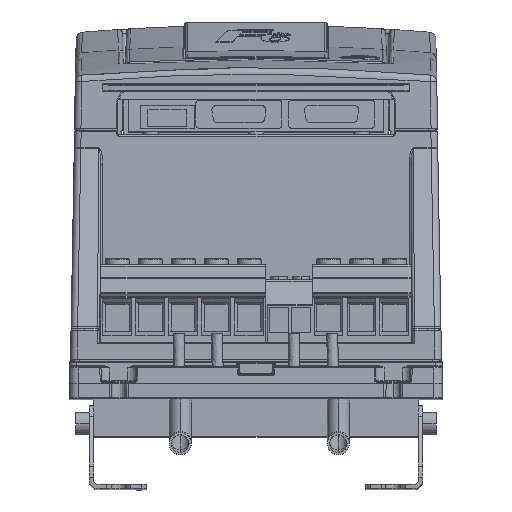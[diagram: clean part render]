
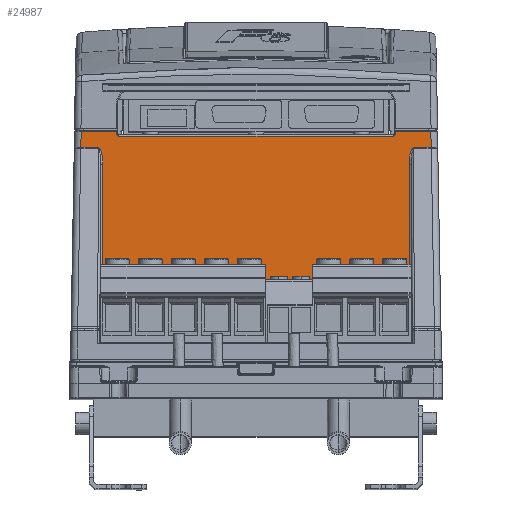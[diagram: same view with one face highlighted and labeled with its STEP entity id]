
A CAD part, top view. The second image highlights one B-rep face of the part: STEP entity #24987.
In plain terms, the highlighted planar face has unit normal (0, 0, 1).
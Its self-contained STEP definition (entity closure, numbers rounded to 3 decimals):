
#1111 = CARTESIAN_POINT ( 'NONE',  ( -69.763, -47.4, 124. ) ) ;
#1179 = LINE ( 'NONE', #10992, #50629 ) ;
#2448 = CARTESIAN_POINT ( 'NONE',  ( -71.729, 41.234, 124. ) ) ;
#2912 = DIRECTION ( 'NONE',  ( -1., 0., 0. ) ) ;
#2989 = CARTESIAN_POINT ( 'NONE',  ( -84.5, 48.6, 124. ) ) ;
#3251 = ORIENTED_EDGE ( 'NONE', *, *, #35529, .T. ) ;
#3365 = CARTESIAN_POINT ( 'NONE',  ( 69.763, 38.164, 124. ) ) ;
#3583 = CARTESIAN_POINT ( 'NONE',  ( 71.729, 41.234, 124. ) ) ;
#5580 = CARTESIAN_POINT ( 'NONE',  ( 62.5, 47.6, 124. ) ) ;
#5594 = LINE ( 'NONE', #25641, #59253 ) ;
#6305 = VERTEX_POINT ( 'NONE', #27609 ) ;
#7482 =( BOUNDED_CURVE ( )  B_SPLINE_CURVE ( 3, ( #8838, #23963, #12818, #39107 ),
 .UNSPECIFIED., .F., .T. ) 
 B_SPLINE_CURVE_WITH_KNOTS ( ( 4, 4 ),
 ( 6.282, 7.836 ),
 .UNSPECIFIED. ) 
 CURVE ( )  GEOMETRIC_REPRESENTATION_ITEM ( )  RATIONAL_B_SPLINE_CURVE ( ( 1., 0.809, 0.809, 1. ) ) 
 REPRESENTATION_ITEM ( '' )  );
#7563 = VECTOR ( 'NONE', #64394, 1000. ) ;
#7686 = EDGE_CURVE ( 'NONE', #62381, #45015, #40835, .T. ) ;
#7888 = DIRECTION ( 'NONE',  ( 0., 0., -1. ) ) ;
#8157 = DIRECTION ( 'NONE',  ( -1., 0., 0. ) ) ;
#8838 = CARTESIAN_POINT ( 'NONE',  ( -71.729, 41.234, 124. ) ) ;
#10251 = CARTESIAN_POINT ( 'NONE',  ( -63.5, 48.6, 124. ) ) ;
#10365 = ORIENTED_EDGE ( 'NONE', *, *, #22477, .T. ) ;
#10992 = CARTESIAN_POINT ( 'NONE',  ( -63.5, 89.215, 124. ) ) ;
#11849 = VERTEX_POINT ( 'NONE', #39962 ) ;
#12438 = VERTEX_POINT ( 'NONE', #3583 ) ;
#12560 = LINE ( 'NONE', #42485, #57003 ) ;
#12648 =( BOUNDED_CURVE ( )  B_SPLINE_CURVE ( 3, ( #28355, #3365, #23384, #63548 ),
 .UNSPECIFIED., .F., .T. ) 
 B_SPLINE_CURVE_WITH_KNOTS ( ( 4, 4 ),
 ( 4.73, 6.284 ),
 .UNSPECIFIED. ) 
 CURVE ( )  GEOMETRIC_REPRESENTATION_ITEM ( )  RATIONAL_B_SPLINE_CURVE ( ( 1., 0.809, 0.809, 1. ) ) 
 REPRESENTATION_ITEM ( '' )  );
#12818 = CARTESIAN_POINT ( 'NONE',  ( -69.763, 38.164, 124. ) ) ;
#12957 = ORIENTED_EDGE ( 'NONE', *, *, #37026, .F. ) ;
#13079 = CARTESIAN_POINT ( 'NONE',  ( -84.5, -47.4, 124. ) ) ;
#13761 = ORIENTED_EDGE ( 'NONE', *, *, #25732, .T. ) ;
#14023 = CARTESIAN_POINT ( 'NONE',  ( 79.767, 41.234, 124. ) ) ;
#14823 = VERTEX_POINT ( 'NONE', #47108 ) ;
#15109 = VECTOR ( 'NONE', #58243, 1000. ) ;
#16128 = CARTESIAN_POINT ( 'NONE',  ( 69.763, 89.215, 124. ) ) ;
#16834 = EDGE_CURVE ( 'NONE', #11849, #14823, #7482, .T. ) ;
#17887 = EDGE_CURVE ( 'NONE', #55895, #19028, #27983, .T. ) ;
#17989 = DIRECTION ( 'NONE',  ( 0., 0., 1. ) ) ;
#19028 = VERTEX_POINT ( 'NONE', #44159 ) ;
#19867 = LINE ( 'NONE', #39006, #45500 ) ;
#20281 = VECTOR ( 'NONE', #62766, 1000. ) ;
#20409 = DIRECTION ( 'NONE',  ( 0., 1., 0. ) ) ;
#20489 = VECTOR ( 'NONE', #20409, 1000. ) ;
#20568 = VECTOR ( 'NONE', #36397, 1000. ) ;
#22477 = EDGE_CURVE ( 'NONE', #19028, #6305, #32980, .T. ) ;
#22649 = CIRCLE ( 'NONE', #31059, 1. ) ;
#22928 = CARTESIAN_POINT ( 'NONE',  ( -78.911, 89.115, 124. ) ) ;
#23384 = CARTESIAN_POINT ( 'NONE',  ( 70.573, 41.234, 124. ) ) ;
#23555 = ORIENTED_EDGE ( 'NONE', *, *, #38395, .T. ) ;
#23881 = VECTOR ( 'NONE', #8157, 1000. ) ;
#23963 = CARTESIAN_POINT ( 'NONE',  ( -70.573, 41.234, 124. ) ) ;
#24987 = ADVANCED_FACE ( 'NONE', ( #37531 ), #32904, .F. ) ;
#25641 = CARTESIAN_POINT ( 'NONE',  ( -84.5, 48.6, 124. ) ) ;
#25732 = EDGE_CURVE ( 'NONE', #58725, #56556, #26179, .T. ) ;
#25903 = VERTEX_POINT ( 'NONE', #1111 ) ;
#26179 = LINE ( 'NONE', #46254, #20568 ) ;
#27235 = EDGE_CURVE ( 'NONE', #45015, #12438, #12648, .T. ) ;
#27450 = LINE ( 'NONE', #2448, #63550 ) ;
#27609 = CARTESIAN_POINT ( 'NONE',  ( 63.5, 47.6, 124. ) ) ;
#27983 = LINE ( 'NONE', #2989, #15109 ) ;
#28355 = CARTESIAN_POINT ( 'NONE',  ( 69.763, 33.786, 124. ) ) ;
#28586 = CARTESIAN_POINT ( 'NONE',  ( 62.5, 46.6, 124. ) ) ;
#29763 = DIRECTION ( 'NONE',  ( -0.018, 1., 0. ) ) ;
#29875 = EDGE_LOOP ( 'NONE', ( #56882, #39685, #50650, #47726, #49964, #41626, #10365, #59446, #13761, #12957, #37411, #3251, #55850, #23555, #57209, #58864 ) ) ;
#31059 = AXIS2_PLACEMENT_3D ( 'NONE', #42364, #17989, #2912 ) ;
#32904 = PLANE ( 'NONE',  #37359 ) ;
#32980 = LINE ( 'NONE', #43148, #35775 ) ;
#33074 = VERTEX_POINT ( 'NONE', #40769 ) ;
#33171 = EDGE_CURVE ( 'NONE', #58725, #6305, #54844, .T. ) ;
#33296 = EDGE_CURVE ( 'NONE', #12438, #57350, #44324, .T. ) ;
#34604 = EDGE_CURVE ( 'NONE', #57350, #55895, #19867, .T. ) ;
#35529 = EDGE_CURVE ( 'NONE', #57953, #58886, #5594, .T. ) ;
#35775 = VECTOR ( 'NONE', #62591, 1000. ) ;
#36089 = CARTESIAN_POINT ( 'NONE',  ( 69.763, 33.786, 124. ) ) ;
#36184 = CARTESIAN_POINT ( 'NONE',  ( 79.633, 48.6, 124. ) ) ;
#36397 = DIRECTION ( 'NONE',  ( -1., 0., 0. ) ) ;
#37026 = EDGE_CURVE ( 'NONE', #33074, #56556, #22649, .T. ) ;
#37359 = AXIS2_PLACEMENT_3D ( 'NONE', #52924, #7888, #57585 ) ;
#37411 = ORIENTED_EDGE ( 'NONE', *, *, #46241, .T. ) ;
#37531 = FACE_OUTER_BOUND ( 'NONE', #29875, .T. ) ;
#38075 = AXIS2_PLACEMENT_3D ( 'NONE', #5580, #46369, #45389 ) ;
#38395 = EDGE_CURVE ( 'NONE', #64839, #11849, #27450, .T. ) ;
#39006 = CARTESIAN_POINT ( 'NONE',  ( 78.857, 92.127, 124. ) ) ;
#39107 = CARTESIAN_POINT ( 'NONE',  ( -69.763, 33.786, 124. ) ) ;
#39685 = ORIENTED_EDGE ( 'NONE', *, *, #7686, .T. ) ;
#39962 = CARTESIAN_POINT ( 'NONE',  ( -71.729, 41.234, 124. ) ) ;
#40131 = DIRECTION ( 'NONE',  ( -1., 0., 0. ) ) ;
#40769 = CARTESIAN_POINT ( 'NONE',  ( -63.5, 47.6, 124. ) ) ;
#40835 = LINE ( 'NONE', #16128, #20489 ) ;
#41333 = EDGE_CURVE ( 'NONE', #62381, #25903, #44648, .T. ) ;
#41626 = ORIENTED_EDGE ( 'NONE', *, *, #17887, .T. ) ;
#41922 = CARTESIAN_POINT ( 'NONE',  ( -62.5, 46.6, 124. ) ) ;
#41926 = DIRECTION ( 'NONE',  ( 0., 1., 0. ) ) ;
#42364 = CARTESIAN_POINT ( 'NONE',  ( -62.5, 47.6, 124. ) ) ;
#42485 = CARTESIAN_POINT ( 'NONE',  ( -69.763, 89.215, 124. ) ) ;
#42685 = LINE ( 'NONE', #22928, #20281 ) ;
#43148 = CARTESIAN_POINT ( 'NONE',  ( 63.5, 89.215, 124. ) ) ;
#44159 = CARTESIAN_POINT ( 'NONE',  ( 63.5, 48.6, 124. ) ) ;
#44324 = LINE ( 'NONE', #14023, #7563 ) ;
#44648 = LINE ( 'NONE', #13079, #23881 ) ;
#44688 = CARTESIAN_POINT ( 'NONE',  ( -79.633, 48.6, 124. ) ) ;
#45015 = VERTEX_POINT ( 'NONE', #36089 ) ;
#45389 = DIRECTION ( 'NONE',  ( -1., 0., 0. ) ) ;
#45500 = VECTOR ( 'NONE', #29763, 1000. ) ;
#46241 = EDGE_CURVE ( 'NONE', #33074, #57953, #1179, .T. ) ;
#46254 = CARTESIAN_POINT ( 'NONE',  ( 49.191, 46.6, 124. ) ) ;
#46369 = DIRECTION ( 'NONE',  ( 0., 0., 1. ) ) ;
#46705 = EDGE_CURVE ( 'NONE', #14823, #25903, #12560, .T. ) ;
#47108 = CARTESIAN_POINT ( 'NONE',  ( -69.763, 33.786, 124. ) ) ;
#47726 = ORIENTED_EDGE ( 'NONE', *, *, #33296, .T. ) ;
#48307 = CARTESIAN_POINT ( 'NONE',  ( -79.765, 41.234, 124. ) ) ;
#48870 = CARTESIAN_POINT ( 'NONE',  ( 79.765, 41.234, 124. ) ) ;
#49964 = ORIENTED_EDGE ( 'NONE', *, *, #34604, .T. ) ;
#50629 = VECTOR ( 'NONE', #41926, 1000. ) ;
#50650 = ORIENTED_EDGE ( 'NONE', *, *, #27235, .T. ) ;
#52924 = CARTESIAN_POINT ( 'NONE',  ( -84.5, 89.215, 124. ) ) ;
#54844 = CIRCLE ( 'NONE', #38075, 1. ) ;
#55850 = ORIENTED_EDGE ( 'NONE', *, *, #60014, .T. ) ;
#55895 = VERTEX_POINT ( 'NONE', #36184 ) ;
#56556 = VERTEX_POINT ( 'NONE', #41922 ) ;
#56874 = CARTESIAN_POINT ( 'NONE',  ( 69.763, -47.4, 124. ) ) ;
#56882 = ORIENTED_EDGE ( 'NONE', *, *, #41333, .F. ) ;
#57003 = VECTOR ( 'NONE', #57979, 1000. ) ;
#57209 = ORIENTED_EDGE ( 'NONE', *, *, #16834, .T. ) ;
#57350 = VERTEX_POINT ( 'NONE', #48870 ) ;
#57585 = DIRECTION ( 'NONE',  ( -1., 0., 0. ) ) ;
#57953 = VERTEX_POINT ( 'NONE', #10251 ) ;
#57979 = DIRECTION ( 'NONE',  ( 0., -1., 0. ) ) ;
#58243 = DIRECTION ( 'NONE',  ( -1., 0., 0. ) ) ;
#58725 = VERTEX_POINT ( 'NONE', #28586 ) ;
#58864 = ORIENTED_EDGE ( 'NONE', *, *, #46705, .T. ) ;
#58886 = VERTEX_POINT ( 'NONE', #44688 ) ;
#59253 = VECTOR ( 'NONE', #40131, 1000. ) ;
#59446 = ORIENTED_EDGE ( 'NONE', *, *, #33171, .F. ) ;
#60014 = EDGE_CURVE ( 'NONE', #58886, #64839, #42685, .T. ) ;
#62381 = VERTEX_POINT ( 'NONE', #56874 ) ;
#62591 = DIRECTION ( 'NONE',  ( 0., -1., 0. ) ) ;
#62643 = DIRECTION ( 'NONE',  ( 1., 0., 0. ) ) ;
#62766 = DIRECTION ( 'NONE',  ( -0.018, -1., 0. ) ) ;
#63548 = CARTESIAN_POINT ( 'NONE',  ( 71.729, 41.234, 124. ) ) ;
#63550 = VECTOR ( 'NONE', #62643, 1000. ) ;
#64394 = DIRECTION ( 'NONE',  ( 1., 0., 0. ) ) ;
#64839 = VERTEX_POINT ( 'NONE', #48307 ) ;
